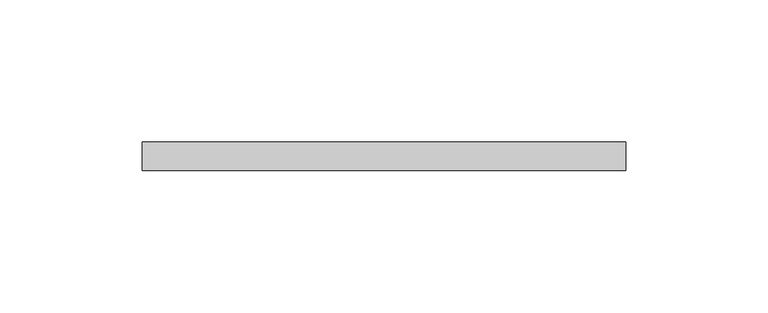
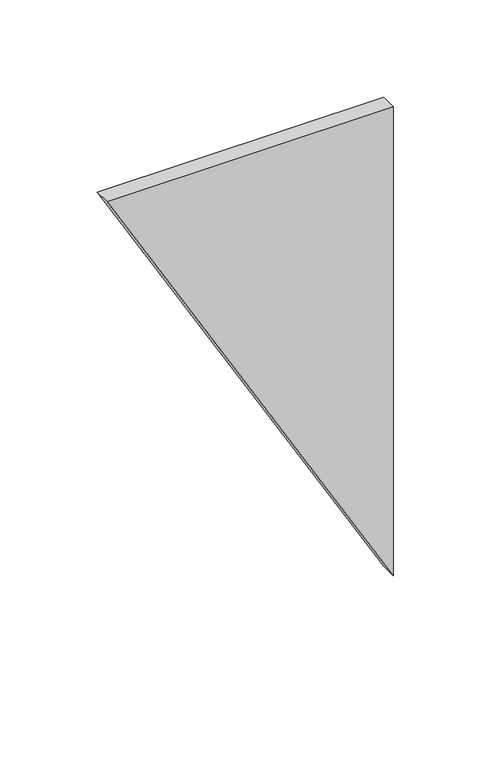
"""IFC4 building model written with IfcOpenShell, lengths in millimetres: plate geometry, 系統嵌板 : 玻璃 1.0cm."""

from ifc_helpers import new_model, si_unit, frame, origin, place, context, project, spatial, polyline, outline, extrude, source, transform, mapped, element, save


def plate_d59a50e6(model_context):
    return source(origin(), model_context, "Body", "SweptSolid", [
        extrude(outline(polyline([(294.2286341, -84.9364905), (0.0, 84.9364905), (294.2286341, 84.9364905), (294.2286341, -84.9364905)])), frame((0.0, -5.0, 0.0), z_axis=(0.0, 1.0, 0.0), x_axis=(0.0, 0.0, 1.0)), (0.0, 0.0, 1.0), 10.0),
    ])


if __name__ == "__main__":
    model = new_model("IFC4")
    model_context = context("Model", 3, world=origin())
    ifc_project = project(units=[si_unit("LENGTHUNIT", "METRE", prefix="MILLI")], contexts=[model_context])
    site = spatial("IfcSite", under=ifc_project)
    building = spatial("IfcBuilding", under=site)
    placement = place(None, origin())
    plate_shape = plate_d59a50e6(model_context)
    element("IfcPlate", 1, ObjectType="系統嵌板 : 玻璃 1.0cm", at=placement, inside=building, context=model_context, shape_type="MappedRepresentation", body=[
        mapped(plate_shape, transform((0.0, 0.0, 0.0), x_axis=(1.0, 0.0, 0.0), y_axis=(0.0, 1.0, 0.0), z_axis=(0.0, 0.0, 1.0))),
    ])
    save(model, "model.ifc")
